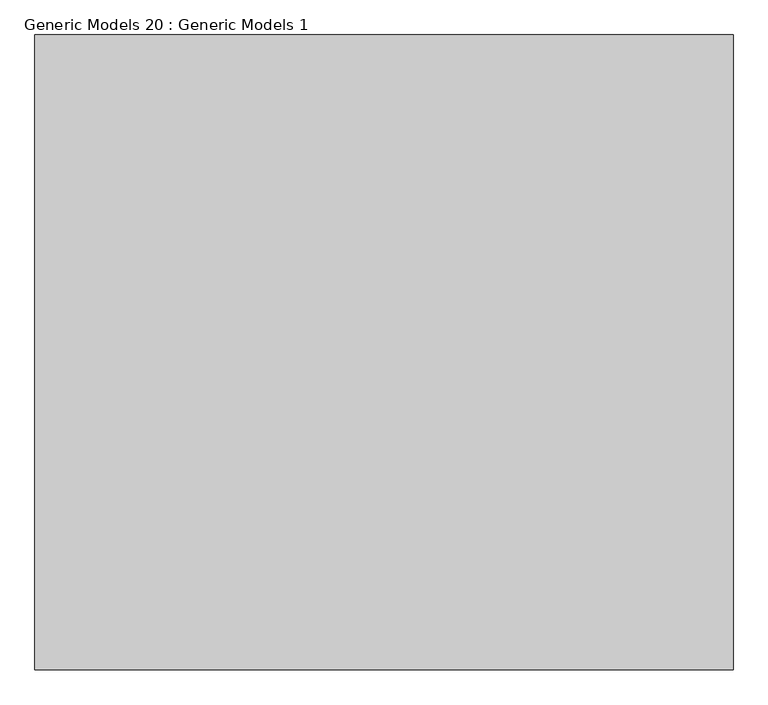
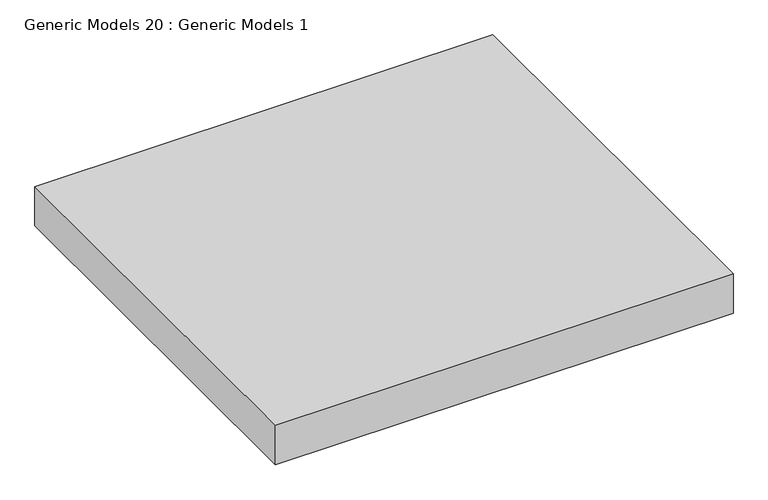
"""IFC4 building model written with IfcOpenShell, lengths in millimetres: proxy geometry, Generic Models 20 : Generic Models 1."""

from ifc_helpers import new_model, si_unit, origin, origin_with_axes, place, context, project, spatial, polyline, outline, extrude, source, transform, mapped, element, save


def generic_models_20_generic_models_1_5fbb363c(model_context):
    return source(origin(), model_context, "Body", "SweptSolid", [
        extrude(outline(polyline([(4341.0810265, -9086.5772826), (4341.0810265, -8086.5772826), (5441.0810265, -8086.5772826), (5441.0810265, -9086.5772826), (4341.0810265, -9086.5772826)])), origin_with_axes(), (0.0, 0.0, 1.0), 100.0),
    ])


if __name__ == "__main__":
    model = new_model("IFC4")
    model_context = context("Model", 3, world=origin())
    ifc_project = project(units=[si_unit("LENGTHUNIT", "METRE", prefix="MILLI")], contexts=[model_context])
    site = spatial("IfcSite", under=ifc_project)
    building = spatial("IfcBuilding", under=site)
    placement = place(None, origin())
    generic_models_20_generic_models_1_shape = generic_models_20_generic_models_1_5fbb363c(model_context)
    element("IfcBuildingElementProxy", 1, Name="Generic Models 20 : Generic Models 1", ObjectType="Generic Models 20 : Generic Models 1", at=placement, inside=building, context=model_context, shape_type="MappedRepresentation", body=[
        mapped(generic_models_20_generic_models_1_shape, transform((0.0, 0.0, 0.0), x_axis=(1.0, 0.0, 0.0), y_axis=(0.0, 1.0, 0.0), z_axis=(0.0, 0.0, 1.0))),
    ])
    save(model, "model.ifc")
